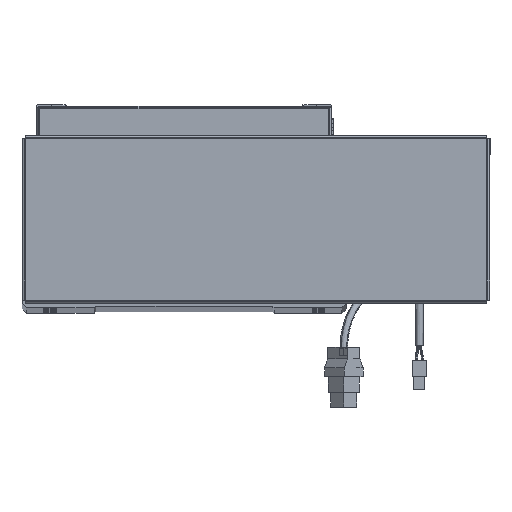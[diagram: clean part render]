
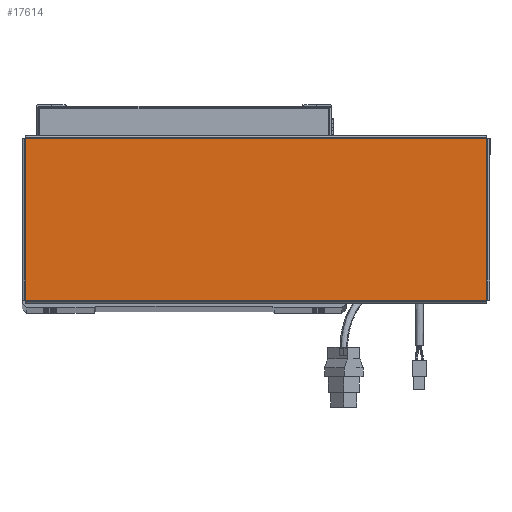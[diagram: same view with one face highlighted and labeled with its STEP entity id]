
A CAD part, top view. The second image highlights one B-rep face of the part: STEP entity #17614.
In plain terms, the highlighted planar face has unit normal (0, 0, 1).
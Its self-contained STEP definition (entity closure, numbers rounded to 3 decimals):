
#720 = AXIS2_PLACEMENT_3D ( 'NONE', #66442, #17590, #49832 ) ;
#5194 = EDGE_CURVE ( 'NONE', #17931, #65388, #44892, .T. ) ;
#5757 = VECTOR ( 'NONE', #40412, 1000. ) ;
#6658 = CARTESIAN_POINT ( 'NONE',  ( 156.513, -54.793, 0. ) ) ;
#10203 = DIRECTION ( 'NONE',  ( 1., 0., 0. ) ) ;
#10667 = LINE ( 'NONE', #6658, #49429 ) ;
#13041 = DIRECTION ( 'NONE',  ( 0., -1., 0. ) ) ;
#17590 = DIRECTION ( 'NONE',  ( 0., 0., 1. ) ) ;
#17614 = ADVANCED_FACE ( 'NONE', ( #27510 ), #33745, .T. ) ;
#17931 = VERTEX_POINT ( 'NONE', #33689 ) ;
#19918 = LINE ( 'NONE', #31933, #32852 ) ;
#21198 = ORIENTED_EDGE ( 'NONE', *, *, #25878, .T. ) ;
#23326 = EDGE_CURVE ( 'NONE', #69905, #17931, #43643, .T. ) ;
#25878 = EDGE_CURVE ( 'NONE', #60514, #69905, #10667, .T. ) ;
#27310 = CARTESIAN_POINT ( 'NONE',  ( -156.513, -54.763, 0. ) ) ;
#27510 = FACE_OUTER_BOUND ( 'NONE', #41517, .T. ) ;
#27810 = ORIENTED_EDGE ( 'NONE', *, *, #65336, .T. ) ;
#31587 = CARTESIAN_POINT ( 'NONE',  ( 156.513, 54.763, 0. ) ) ;
#31933 = CARTESIAN_POINT ( 'NONE',  ( -156.543, -54.763, 0. ) ) ;
#32852 = VECTOR ( 'NONE', #10203, 1000. ) ;
#33689 = CARTESIAN_POINT ( 'NONE',  ( -156.513, 54.763, 0. ) ) ;
#33745 = PLANE ( 'NONE',  #720 ) ;
#34386 = CARTESIAN_POINT ( 'NONE',  ( 156.543, 54.763, 0. ) ) ;
#40412 = DIRECTION ( 'NONE',  ( -1., 0., 0. ) ) ;
#41517 = EDGE_LOOP ( 'NONE', ( #27810, #21198, #58217, #45409 ) ) ;
#43643 = LINE ( 'NONE', #34386, #5757 ) ;
#44892 = LINE ( 'NONE', #57115, #57831 ) ;
#45409 = ORIENTED_EDGE ( 'NONE', *, *, #5194, .T. ) ;
#49429 = VECTOR ( 'NONE', #61308, 1000. ) ;
#49832 = DIRECTION ( 'NONE',  ( 1., 0., 0. ) ) ;
#57115 = CARTESIAN_POINT ( 'NONE',  ( -156.513, 54.793, 0. ) ) ;
#57831 = VECTOR ( 'NONE', #13041, 1000. ) ;
#58217 = ORIENTED_EDGE ( 'NONE', *, *, #23326, .T. ) ;
#60514 = VERTEX_POINT ( 'NONE', #61831 ) ;
#61308 = DIRECTION ( 'NONE',  ( 0., 1., 0. ) ) ;
#61831 = CARTESIAN_POINT ( 'NONE',  ( 156.513, -54.763, 0. ) ) ;
#65336 = EDGE_CURVE ( 'NONE', #65388, #60514, #19918, .T. ) ;
#65388 = VERTEX_POINT ( 'NONE', #27310 ) ;
#66442 = CARTESIAN_POINT ( 'NONE',  ( 0., 0., 0. ) ) ;
#69905 = VERTEX_POINT ( 'NONE', #31587 ) ;
